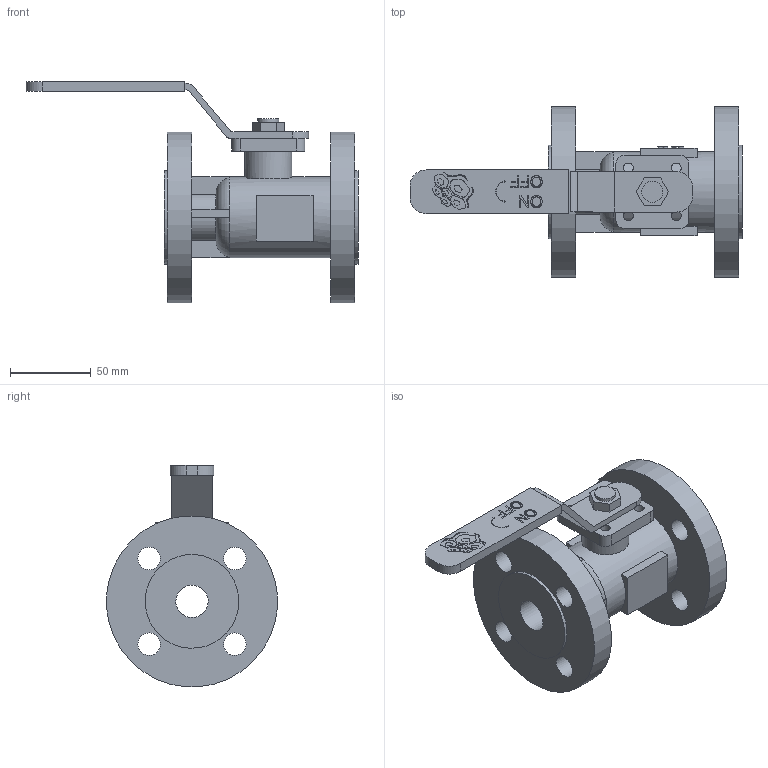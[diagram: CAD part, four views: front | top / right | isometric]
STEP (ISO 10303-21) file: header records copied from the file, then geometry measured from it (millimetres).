
FILE_DESCRIPTION(('STEP AP203'), '1');
FILE_NAME('3D_707-020-16_1', '', ('UNSPECIFIED'), ('UNSPECIFIED'), 'C3D Converter', 'C3D Toolkit', '');
FILE_SCHEMA(('CONFIG_CONTROL_DESIGN'));
Length unit declared in the file: millimetre
Bounding box: 205.5 x 105.6 x 137 mm (x, y, z)
Volume: 430402.3 mm3; surface area: 89310.9 mm2
Topology: 18 solids, 18 shells, 2328 faces, 6798 edges, 4528 vertices
Faces by surface type: plane 2287, cylinder 37, torus 4
Full cylindrical faces by diameter (mm): 6 x4, 13 x1, 14 x8, 20 x1, 29 x1, 50 x1, 58 x2, 106 x2
Entity records: 94930 total; most frequent: CARTESIAN_POINT 14360, ORIENTED_EDGE 13556, DIRECTION 11519, EDGE_CURVE 6778, LINE 6677, VECTOR 6677, VERTEX_POINT 4528, AXIS2_PLACEMENT_3D 2421
